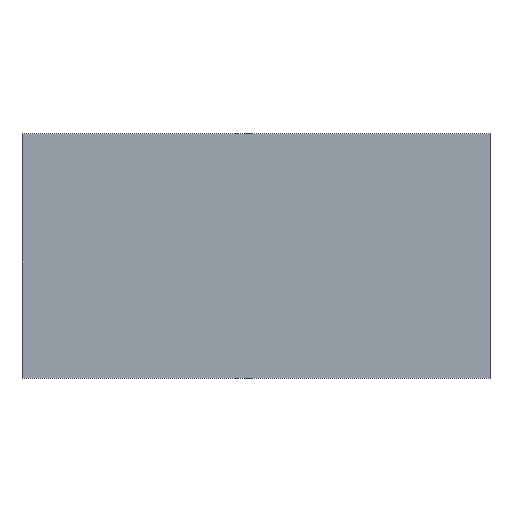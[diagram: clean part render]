
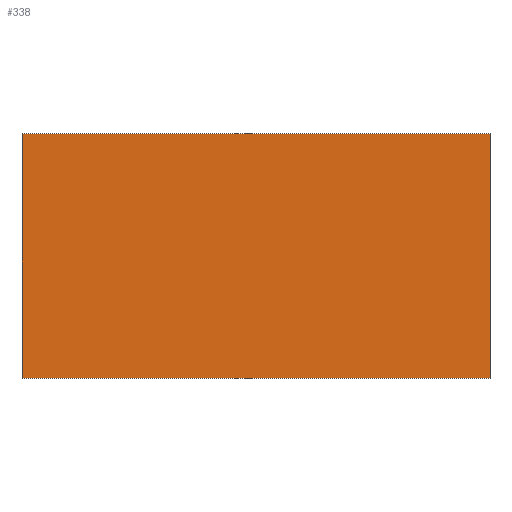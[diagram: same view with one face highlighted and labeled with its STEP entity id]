
A CAD part, top view. The second image highlights one B-rep face of the part: STEP entity #338.
In plain terms, the highlighted planar face has unit normal (0, 0, 1).
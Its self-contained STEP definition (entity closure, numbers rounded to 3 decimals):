
#24 = VERTEX_POINT('',#25);
#25 = CARTESIAN_POINT('',(-48.,-20.925,26.075));
#32 = PLANE('',#33);
#33 = AXIS2_PLACEMENT_3D('',#34,#35,#36);
#34 = CARTESIAN_POINT('',(-48.,-20.925,24.475));
#35 = DIRECTION('',(1.,0.,0.));
#36 = DIRECTION('',(0.,0.,1.));
#44 = PLANE('',#45);
#45 = AXIS2_PLACEMENT_3D('',#46,#47,#48);
#46 = CARTESIAN_POINT('',(-48.,-20.925,24.475));
#47 = DIRECTION('',(0.,1.,0.));
#48 = DIRECTION('',(0.,0.,1.));
#85 = VERTEX_POINT('',#86);
#86 = CARTESIAN_POINT('',(-48.,31.275,26.075));
#100 = PLANE('',#101);
#101 = AXIS2_PLACEMENT_3D('',#102,#103,#104);
#102 = CARTESIAN_POINT('',(-48.,31.275,24.475));
#103 = DIRECTION('',(0.,1.,0.));
#104 = DIRECTION('',(0.,0.,1.));
#112 = EDGE_CURVE('',#24,#85,#113,.T.);
#113 = SURFACE_CURVE('',#114,(#118,#125),.PCURVE_S1.);
#114 = LINE('',#115,#116);
#115 = CARTESIAN_POINT('',(-48.,-20.925,26.075));
#116 = VECTOR('',#117,1.);
#117 = DIRECTION('',(0.,1.,0.));
#118 = PCURVE('',#32,#119);
#119 = DEFINITIONAL_REPRESENTATION('',(#120),#124);
#120 = LINE('',#121,#122);
#121 = CARTESIAN_POINT('',(1.6,0.));
#122 = VECTOR('',#123,1.);
#123 = DIRECTION('',(0.,-1.));
#124 = ( GEOMETRIC_REPRESENTATION_CONTEXT(2) 
PARAMETRIC_REPRESENTATION_CONTEXT() REPRESENTATION_CONTEXT('2D SPACE',''
  ) );
#125 = PCURVE('',#126,#131);
#126 = PLANE('',#127);
#127 = AXIS2_PLACEMENT_3D('',#128,#129,#130);
#128 = CARTESIAN_POINT('',(-48.,-20.925,26.075));
#129 = DIRECTION('',(0.,0.,1.));
#130 = DIRECTION('',(1.,0.,0.));
#131 = DEFINITIONAL_REPRESENTATION('',(#132),#136);
#132 = LINE('',#133,#134);
#133 = CARTESIAN_POINT('',(0.,0.));
#134 = VECTOR('',#135,1.);
#135 = DIRECTION('',(0.,1.));
#136 = ( GEOMETRIC_REPRESENTATION_CONTEXT(2) 
PARAMETRIC_REPRESENTATION_CONTEXT() REPRESENTATION_CONTEXT('2D SPACE',''
  ) );
#144 = VERTEX_POINT('',#145);
#145 = CARTESIAN_POINT('',(52.,-20.925,26.075));
#152 = PLANE('',#153);
#153 = AXIS2_PLACEMENT_3D('',#154,#155,#156);
#154 = CARTESIAN_POINT('',(52.,-20.925,24.475));
#155 = DIRECTION('',(1.,0.,0.));
#156 = DIRECTION('',(0.,0.,1.));
#195 = VERTEX_POINT('',#196);
#196 = CARTESIAN_POINT('',(52.,31.275,26.075));
#217 = EDGE_CURVE('',#144,#195,#218,.T.);
#218 = SURFACE_CURVE('',#219,(#223,#230),.PCURVE_S1.);
#219 = LINE('',#220,#221);
#220 = CARTESIAN_POINT('',(52.,-20.925,26.075));
#221 = VECTOR('',#222,1.);
#222 = DIRECTION('',(0.,1.,0.));
#223 = PCURVE('',#152,#224);
#224 = DEFINITIONAL_REPRESENTATION('',(#225),#229);
#225 = LINE('',#226,#227);
#226 = CARTESIAN_POINT('',(1.6,0.));
#227 = VECTOR('',#228,1.);
#228 = DIRECTION('',(0.,-1.));
#229 = ( GEOMETRIC_REPRESENTATION_CONTEXT(2) 
PARAMETRIC_REPRESENTATION_CONTEXT() REPRESENTATION_CONTEXT('2D SPACE',''
  ) );
#230 = PCURVE('',#126,#231);
#231 = DEFINITIONAL_REPRESENTATION('',(#232),#236);
#232 = LINE('',#233,#234);
#233 = CARTESIAN_POINT('',(100.,0.));
#234 = VECTOR('',#235,1.);
#235 = DIRECTION('',(0.,1.));
#236 = ( GEOMETRIC_REPRESENTATION_CONTEXT(2) 
PARAMETRIC_REPRESENTATION_CONTEXT() REPRESENTATION_CONTEXT('2D SPACE',''
  ) );
#263 = EDGE_CURVE('',#24,#144,#264,.T.);
#264 = SURFACE_CURVE('',#265,(#269,#276),.PCURVE_S1.);
#265 = LINE('',#266,#267);
#266 = CARTESIAN_POINT('',(-48.,-20.925,26.075));
#267 = VECTOR('',#268,1.);
#268 = DIRECTION('',(1.,0.,0.));
#269 = PCURVE('',#44,#270);
#270 = DEFINITIONAL_REPRESENTATION('',(#271),#275);
#271 = LINE('',#272,#273);
#272 = CARTESIAN_POINT('',(1.6,0.));
#273 = VECTOR('',#274,1.);
#274 = DIRECTION('',(0.,1.));
#275 = ( GEOMETRIC_REPRESENTATION_CONTEXT(2) 
PARAMETRIC_REPRESENTATION_CONTEXT() REPRESENTATION_CONTEXT('2D SPACE',''
  ) );
#276 = PCURVE('',#126,#277);
#277 = DEFINITIONAL_REPRESENTATION('',(#278),#282);
#278 = LINE('',#279,#280);
#279 = CARTESIAN_POINT('',(0.,0.));
#280 = VECTOR('',#281,1.);
#281 = DIRECTION('',(1.,0.));
#282 = ( GEOMETRIC_REPRESENTATION_CONTEXT(2) 
PARAMETRIC_REPRESENTATION_CONTEXT() REPRESENTATION_CONTEXT('2D SPACE',''
  ) );
#310 = EDGE_CURVE('',#85,#195,#311,.T.);
#311 = SURFACE_CURVE('',#312,(#316,#323),.PCURVE_S1.);
#312 = LINE('',#313,#314);
#313 = CARTESIAN_POINT('',(-48.,31.275,26.075));
#314 = VECTOR('',#315,1.);
#315 = DIRECTION('',(1.,0.,0.));
#316 = PCURVE('',#100,#317);
#317 = DEFINITIONAL_REPRESENTATION('',(#318),#322);
#318 = LINE('',#319,#320);
#319 = CARTESIAN_POINT('',(1.6,0.));
#320 = VECTOR('',#321,1.);
#321 = DIRECTION('',(0.,1.));
#322 = ( GEOMETRIC_REPRESENTATION_CONTEXT(2) 
PARAMETRIC_REPRESENTATION_CONTEXT() REPRESENTATION_CONTEXT('2D SPACE',''
  ) );
#323 = PCURVE('',#126,#324);
#324 = DEFINITIONAL_REPRESENTATION('',(#325),#329);
#325 = LINE('',#326,#327);
#326 = CARTESIAN_POINT('',(0.,52.2));
#327 = VECTOR('',#328,1.);
#328 = DIRECTION('',(1.,0.));
#329 = ( GEOMETRIC_REPRESENTATION_CONTEXT(2) 
PARAMETRIC_REPRESENTATION_CONTEXT() REPRESENTATION_CONTEXT('2D SPACE',''
  ) );
#338 = ADVANCED_FACE('',(#339),#126,.T.);
#339 = FACE_BOUND('',#340,.T.);
#340 = EDGE_LOOP('',(#341,#342,#343,#344));
#341 = ORIENTED_EDGE('',*,*,#112,.F.);
#342 = ORIENTED_EDGE('',*,*,#263,.T.);
#343 = ORIENTED_EDGE('',*,*,#217,.T.);
#344 = ORIENTED_EDGE('',*,*,#310,.F.);
